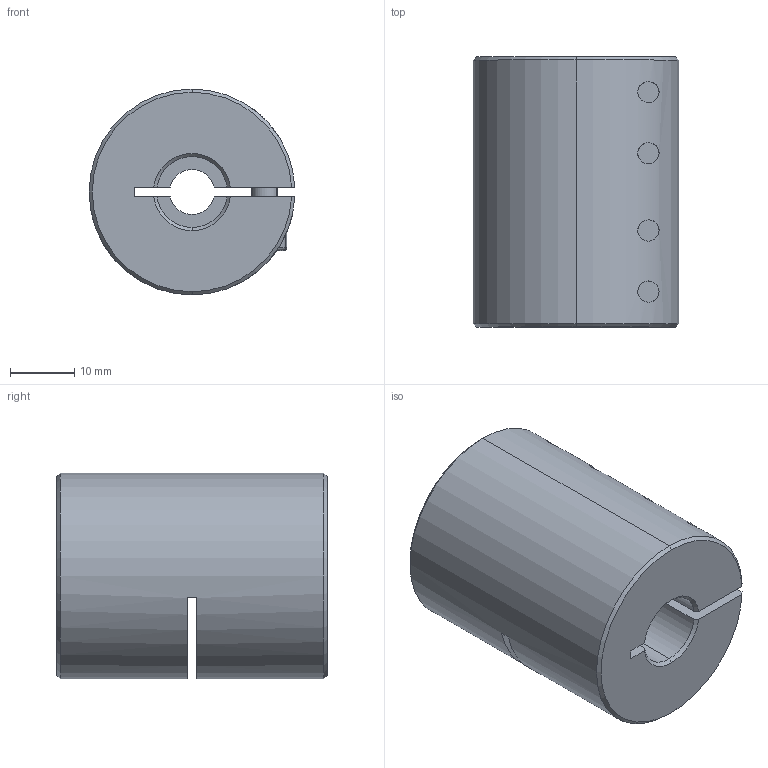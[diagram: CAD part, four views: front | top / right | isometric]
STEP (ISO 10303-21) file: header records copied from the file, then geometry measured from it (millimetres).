
FILE_DESCRIPTION (( 'STEP AP203' ), '1' );
FILE_NAME ('LL-B-D32L42-7-11.STEP', '2021-11-05T07:41:23', ( '' ), ( '' ), 'SwSTEP 2.0', 'SolidWorks 2018', '' );
FILE_SCHEMA (( 'CONFIG_CONTROL_DESIGN' ));
Length unit declared in the file: millimetre
Products named in the file (1): LL-B-D32L42-7-11
Bounding box: 31.98 x 42 x 32 mm (x, y, z)
Volume: 28491.4 mm3; surface area: 10319.2 mm2
Topology: 1 solids, 1 shells, 193 faces, 492 edges, 309 vertices
Faces by surface type: plane 88, cylinder 77, cone 20, torus 8
Entity records: 6376 total; most frequent: CARTESIAN_POINT 1559, DIRECTION 1037, ORIENTED_EDGE 968, EDGE_CURVE 484, AXIS2_PLACEMENT_3D 403, VERTEX_POINT 309, VECTOR 231, LINE 231
